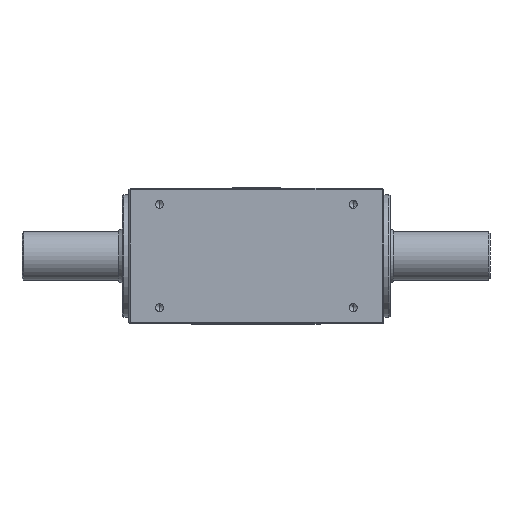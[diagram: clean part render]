
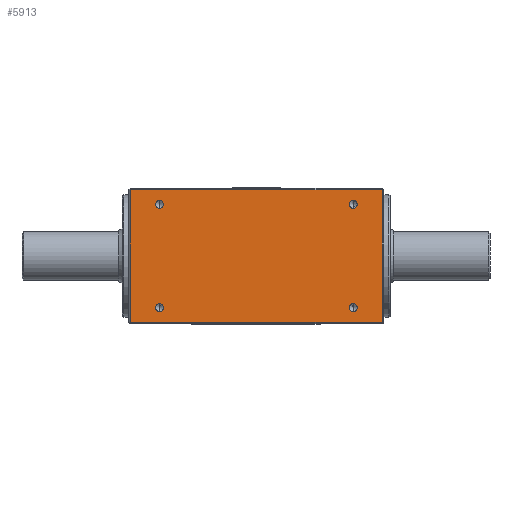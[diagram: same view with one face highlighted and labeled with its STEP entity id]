
A CAD part, front view. The second image highlights one B-rep face of the part: STEP entity #5913.
In plain terms, the highlighted planar face has unit normal (0, -1, 0).
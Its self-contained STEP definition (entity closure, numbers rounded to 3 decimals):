
#2505 = LINE ( 'NONE', #42312, #71133 ) ;
#5913 = ADVANCED_FACE ( 'NONE', ( #36745, #178076, #122538, #9011, #46322 ), #121611, .F. ) ;
#6032 = CIRCLE ( 'NONE', #132816, 1.25 ) ;
#9011 = FACE_BOUND ( 'NONE', #75319, .T. ) ;
#13438 = DIRECTION ( 'NONE',  ( 0., 0., -1. ) ) ;
#14367 = CIRCLE ( 'NONE', #99952, 1.25 ) ;
#14847 = DIRECTION ( 'NONE',  ( 0., -1., 0. ) ) ;
#15100 = DIRECTION ( 'NONE',  ( 0., -1., 0. ) ) ;
#19707 = AXIS2_PLACEMENT_3D ( 'NONE', #32416, #22849, #65367 ) ;
#19926 = VERTEX_POINT ( 'NONE', #109327 ) ;
#22849 = DIRECTION ( 'NONE',  ( 0., 1., 0. ) ) ;
#22862 = VECTOR ( 'NONE', #160838, 1000. ) ;
#24588 = ORIENTED_EDGE ( 'NONE', *, *, #135092, .F. ) ;
#25198 = DIRECTION ( 'NONE',  ( 0., -1., 0. ) ) ;
#27411 = CIRCLE ( 'NONE', #56985, 1.25 ) ;
#29600 = ORIENTED_EDGE ( 'NONE', *, *, #176382, .F. ) ;
#30468 = EDGE_CURVE ( 'NONE', #117250, #96812, #112433, .T. ) ;
#31461 = CIRCLE ( 'NONE', #176047, 1.25 ) ;
#32416 = CARTESIAN_POINT ( 'NONE',  ( -42.874, -34.303, -21. ) ) ;
#32794 = ORIENTED_EDGE ( 'NONE', *, *, #109865, .F. ) ;
#33337 = EDGE_LOOP ( 'NONE', ( #33522, #70908 ) ) ;
#33511 = ORIENTED_EDGE ( 'NONE', *, *, #175758, .T. ) ;
#33522 = ORIENTED_EDGE ( 'NONE', *, *, #30468, .F. ) ;
#34574 = DIRECTION ( 'NONE',  ( 0., -1., 0. ) ) ;
#35973 = ORIENTED_EDGE ( 'NONE', *, *, #133535, .F. ) ;
#36745 = FACE_OUTER_BOUND ( 'NONE', #144038, .T. ) ;
#37014 = CARTESIAN_POINT ( 'NONE',  ( -31.374, -34.303, 14.75 ) ) ;
#37650 = DIRECTION ( 'NONE',  ( 0., -1., 0. ) ) ;
#38239 = ORIENTED_EDGE ( 'NONE', *, *, #180583, .T. ) ;
#40926 = DIRECTION ( 'NONE',  ( 0., 0., 1. ) ) ;
#42312 = CARTESIAN_POINT ( 'NONE',  ( -42.874, -34.303, -20.5 ) ) ;
#44337 = VERTEX_POINT ( 'NONE', #37014 ) ;
#46322 = FACE_BOUND ( 'NONE', #125169, .T. ) ;
#48942 = CARTESIAN_POINT ( 'NONE',  ( -31.374, -34.303, 16. ) ) ;
#50462 = VERTEX_POINT ( 'NONE', #177667 ) ;
#54312 = CARTESIAN_POINT ( 'NONE',  ( 37.626, -34.303, 20.5 ) ) ;
#54760 = DIRECTION ( 'NONE',  ( 0., 0., 1. ) ) ;
#55138 = VERTEX_POINT ( 'NONE', #129593 ) ;
#56985 = AXIS2_PLACEMENT_3D ( 'NONE', #48942, #62784, #64607 ) ;
#60985 = VECTOR ( 'NONE', #13438, 1000. ) ;
#62784 = DIRECTION ( 'NONE',  ( 0., -1., 0. ) ) ;
#64607 = DIRECTION ( 'NONE',  ( 0., 0., 1. ) ) ;
#65268 = VERTEX_POINT ( 'NONE', #54312 ) ;
#65367 = DIRECTION ( 'NONE',  ( 0., 0., -1. ) ) ;
#68594 = CARTESIAN_POINT ( 'NONE',  ( 28.626, -34.303, -16. ) ) ;
#68975 = ORIENTED_EDGE ( 'NONE', *, *, #167124, .F. ) ;
#70908 = ORIENTED_EDGE ( 'NONE', *, *, #118971, .F. ) ;
#71133 = VECTOR ( 'NONE', #115186, 1000. ) ;
#72071 = DIRECTION ( 'NONE',  ( 0., 0., 1. ) ) ;
#72531 = CARTESIAN_POINT ( 'NONE',  ( -40.374, -34.303, -21. ) ) ;
#72995 = CARTESIAN_POINT ( 'NONE',  ( 28.626, -34.303, 16. ) ) ;
#75319 = EDGE_LOOP ( 'NONE', ( #96901, #68975 ) ) ;
#77652 = AXIS2_PLACEMENT_3D ( 'NONE', #91262, #37650, #134601 ) ;
#78708 = CARTESIAN_POINT ( 'NONE',  ( -31.374, -34.303, 16. ) ) ;
#79656 = EDGE_CURVE ( 'NONE', #65268, #50462, #120998, .T. ) ;
#82575 = VECTOR ( 'NONE', #40926, 1000. ) ;
#82619 = CARTESIAN_POINT ( 'NONE',  ( -31.374, -34.303, -14.75 ) ) ;
#91262 = CARTESIAN_POINT ( 'NONE',  ( -31.374, -34.303, -16. ) ) ;
#92015 = CIRCLE ( 'NONE', #150888, 1.25 ) ;
#93586 = LINE ( 'NONE', #164703, #82575 ) ;
#96048 = CIRCLE ( 'NONE', #131325, 1.25 ) ;
#96168 = DIRECTION ( 'NONE',  ( 0., 0., 1. ) ) ;
#96812 = VERTEX_POINT ( 'NONE', #180050 ) ;
#96901 = ORIENTED_EDGE ( 'NONE', *, *, #116447, .F. ) ;
#98826 = CARTESIAN_POINT ( 'NONE',  ( -40.374, -34.303, -20.5 ) ) ;
#99952 = AXIS2_PLACEMENT_3D ( 'NONE', #72995, #157936, #72071 ) ;
#101879 = CARTESIAN_POINT ( 'NONE',  ( 28.626, -34.303, 16. ) ) ;
#104745 = VERTEX_POINT ( 'NONE', #98826 ) ;
#105063 = CARTESIAN_POINT ( 'NONE',  ( 37.626, -34.303, -20.5 ) ) ;
#107471 = CARTESIAN_POINT ( 'NONE',  ( -31.374, -34.303, -16. ) ) ;
#108740 = EDGE_CURVE ( 'NONE', #137271, #65268, #93586, .T. ) ;
#109327 = CARTESIAN_POINT ( 'NONE',  ( -31.374, -34.303, -17.25 ) ) ;
#109865 = EDGE_CURVE ( 'NONE', #55138, #44337, #92015, .T. ) ;
#112433 = CIRCLE ( 'NONE', #156608, 1.25 ) ;
#115186 = DIRECTION ( 'NONE',  ( 1., 0., 0. ) ) ;
#116447 = EDGE_CURVE ( 'NONE', #146578, #19926, #133616, .T. ) ;
#116481 = VERTEX_POINT ( 'NONE', #149351 ) ;
#117250 = VERTEX_POINT ( 'NONE', #141016 ) ;
#118971 = EDGE_CURVE ( 'NONE', #96812, #117250, #31461, .T. ) ;
#120998 = LINE ( 'NONE', #148729, #22862 ) ;
#121611 = PLANE ( 'NONE',  #19707 ) ;
#122538 = FACE_BOUND ( 'NONE', #33337, .T. ) ;
#124511 = ORIENTED_EDGE ( 'NONE', *, *, #108740, .T. ) ;
#125169 = EDGE_LOOP ( 'NONE', ( #32794, #29600 ) ) ;
#127717 = DIRECTION ( 'NONE',  ( 0., 0., 1. ) ) ;
#129593 = CARTESIAN_POINT ( 'NONE',  ( -31.374, -34.303, 17.25 ) ) ;
#130878 = ORIENTED_EDGE ( 'NONE', *, *, #79656, .T. ) ;
#131325 = AXIS2_PLACEMENT_3D ( 'NONE', #107471, #34574, #134263 ) ;
#132816 = AXIS2_PLACEMENT_3D ( 'NONE', #101879, #15100, #127717 ) ;
#133535 = EDGE_CURVE ( 'NONE', #147528, #116481, #14367, .T. ) ;
#133616 = CIRCLE ( 'NONE', #77652, 1.25 ) ;
#134263 = DIRECTION ( 'NONE',  ( 0., 0., 1. ) ) ;
#134601 = DIRECTION ( 'NONE',  ( 0., 0., 1. ) ) ;
#135092 = EDGE_CURVE ( 'NONE', #116481, #147528, #6032, .T. ) ;
#137271 = VERTEX_POINT ( 'NONE', #105063 ) ;
#139975 = LINE ( 'NONE', #72531, #60985 ) ;
#140458 = DIRECTION ( 'NONE',  ( 0., -1., 0. ) ) ;
#141016 = CARTESIAN_POINT ( 'NONE',  ( 28.626, -34.303, -14.75 ) ) ;
#144038 = EDGE_LOOP ( 'NONE', ( #33511, #124511, #130878, #38239 ) ) ;
#146578 = VERTEX_POINT ( 'NONE', #82619 ) ;
#147528 = VERTEX_POINT ( 'NONE', #154599 ) ;
#148729 = CARTESIAN_POINT ( 'NONE',  ( -42.874, -34.303, 20.5 ) ) ;
#149351 = CARTESIAN_POINT ( 'NONE',  ( 28.626, -34.303, 14.75 ) ) ;
#150888 = AXIS2_PLACEMENT_3D ( 'NONE', #78708, #140458, #180302 ) ;
#152570 = EDGE_LOOP ( 'NONE', ( #35973, #24588 ) ) ;
#154599 = CARTESIAN_POINT ( 'NONE',  ( 28.626, -34.303, 17.25 ) ) ;
#156608 = AXIS2_PLACEMENT_3D ( 'NONE', #68594, #25198, #54760 ) ;
#157936 = DIRECTION ( 'NONE',  ( 0., -1., 0. ) ) ;
#160838 = DIRECTION ( 'NONE',  ( -1., 0., 0. ) ) ;
#164703 = CARTESIAN_POINT ( 'NONE',  ( 37.626, -34.303, 21. ) ) ;
#167124 = EDGE_CURVE ( 'NONE', #19926, #146578, #96048, .T. ) ;
#175758 = EDGE_CURVE ( 'NONE', #104745, #137271, #2505, .T. ) ;
#176047 = AXIS2_PLACEMENT_3D ( 'NONE', #182122, #14847, #96168 ) ;
#176382 = EDGE_CURVE ( 'NONE', #44337, #55138, #27411, .T. ) ;
#177667 = CARTESIAN_POINT ( 'NONE',  ( -40.374, -34.303, 20.5 ) ) ;
#178076 = FACE_BOUND ( 'NONE', #152570, .T. ) ;
#180050 = CARTESIAN_POINT ( 'NONE',  ( 28.626, -34.303, -17.25 ) ) ;
#180302 = DIRECTION ( 'NONE',  ( 0., 0., 1. ) ) ;
#180583 = EDGE_CURVE ( 'NONE', #50462, #104745, #139975, .T. ) ;
#182122 = CARTESIAN_POINT ( 'NONE',  ( 28.626, -34.303, -16. ) ) ;
